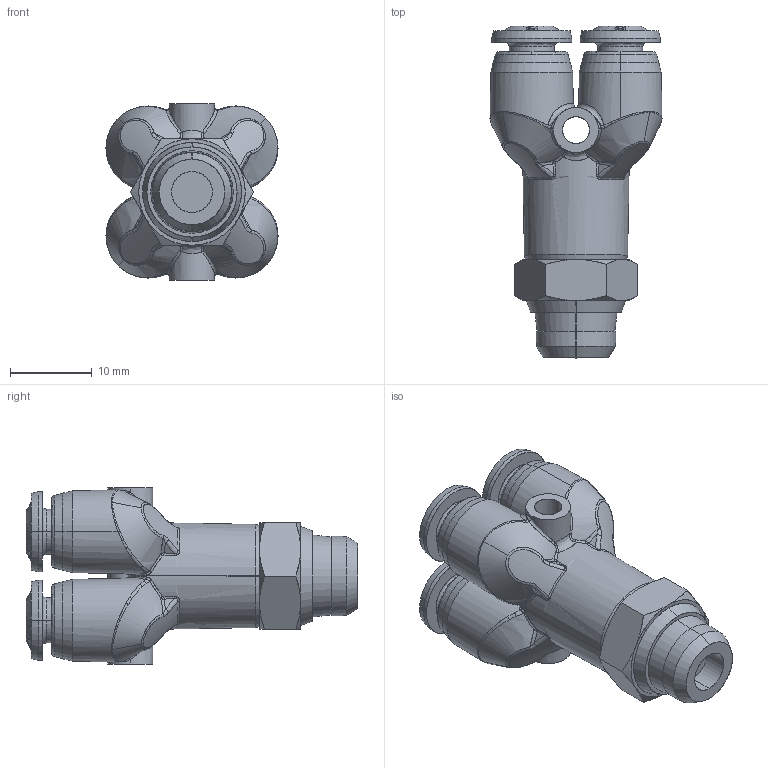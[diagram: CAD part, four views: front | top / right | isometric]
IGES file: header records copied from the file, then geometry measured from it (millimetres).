
Start section: SolidWorks IGES file using analytic representation for surfaces
Global section: file name: K:\Disegni Esecutivi\Serie 55000\ASSIEMI_55000\55340\ASSIEMI_PIENI_55340\5534000001.IGS; native system: SolidWorks 2007; preprocessor: SolidWorks 2007; author: cad02; date: 071129.155046; units: millimetre
Bounding box: 21 x 40.5 x 21.5 mm (x, y, z)
Surface area: 4304.2 mm2 (no closed solid volume)
Topology: 0 solids, 0 shells, 1023 faces, 9694 edges, 9690 vertices
Faces by surface type: bspline 762, revolution 261
